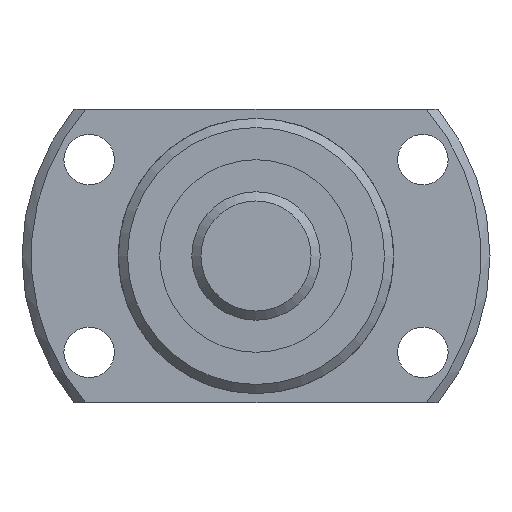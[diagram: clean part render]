
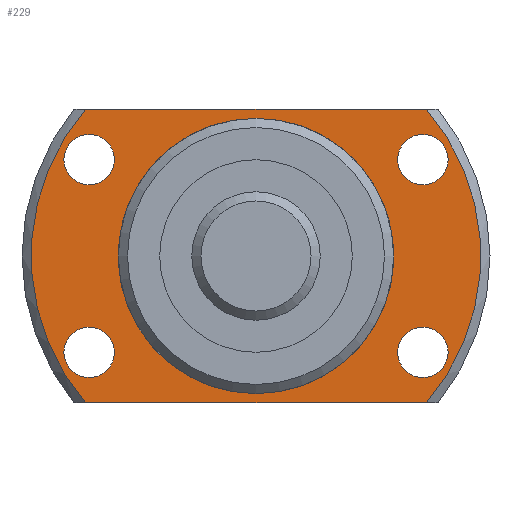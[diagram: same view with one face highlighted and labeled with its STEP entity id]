
A CAD part, left-side view. The second image highlights one B-rep face of the part: STEP entity #229.
In plain terms, the highlighted planar face has unit normal (-1, 0, 0).
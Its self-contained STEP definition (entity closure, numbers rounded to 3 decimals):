
#229 = ADVANCED_FACE( '', ( #398, #399, #400, #401, #402, #403 ), #404, .F. );
#398 = FACE_OUTER_BOUND( '', #597, .T. );
#399 = FACE_BOUND( '', #598, .T. );
#400 = FACE_BOUND( '', #599, .T. );
#401 = FACE_BOUND( '', #600, .T. );
#402 = FACE_BOUND( '', #601, .T. );
#403 = FACE_BOUND( '', #602, .T. );
#404 = PLANE( '', #603 );
#597 = EDGE_LOOP( '', ( #1066, #1067, #1068, #1069 ) );
#598 = EDGE_LOOP( '', ( #1070 ) );
#599 = EDGE_LOOP( '', ( #1071 ) );
#600 = EDGE_LOOP( '', ( #1072 ) );
#601 = EDGE_LOOP( '', ( #1073 ) );
#602 = EDGE_LOOP( '', ( #1074 ) );
#603 = AXIS2_PLACEMENT_3D( '', #1075, #1076, #1077 );
#1066 = ORIENTED_EDGE( '', *, *, #1233, .F. );
#1067 = ORIENTED_EDGE( '', *, *, #1334, .T. );
#1068 = ORIENTED_EDGE( '', *, *, #1328, .F. );
#1069 = ORIENTED_EDGE( '', *, *, #1227, .T. );
#1070 = ORIENTED_EDGE( '', *, *, #1335, .T. );
#1071 = ORIENTED_EDGE( '', *, *, #1336, .T. );
#1072 = ORIENTED_EDGE( '', *, *, #1337, .T. );
#1073 = ORIENTED_EDGE( '', *, *, #1338, .T. );
#1074 = ORIENTED_EDGE( '', *, *, #1330, .T. );
#1075 = CARTESIAN_POINT( '', ( 27., 14.8, 0. ) );
#1076 = DIRECTION( '', ( 1., 0., 0. ) );
#1077 = DIRECTION( '', ( 0., 0., -1. ) );
#1227 = EDGE_CURVE( '', #1411, #1409, #1412, .T. );
#1233 = EDGE_CURVE( '', #1422, #1409, #1423, .T. );
#1328 = EDGE_CURVE( '', #1411, #1588, #1589, .T. );
#1330 = EDGE_CURVE( '', #1591, #1591, #1592, .T. );
#1334 = EDGE_CURVE( '', #1422, #1588, #1596, .T. );
#1335 = EDGE_CURVE( '', #1597, #1597, #1598, .T. );
#1336 = EDGE_CURVE( '', #1599, #1599, #1600, .T. );
#1337 = EDGE_CURVE( '', #1601, #1601, #1602, .T. );
#1338 = EDGE_CURVE( '', #1603, #1603, #1604, .T. );
#1409 = VERTEX_POINT( '', #1692 );
#1411 = VERTEX_POINT( '', #1697 );
#1412 = LINE( '', #1698, #1699 );
#1422 = VERTEX_POINT( '', #1720 );
#1423 = CIRCLE( '', #1721, 24.5 );
#1588 = VERTEX_POINT( '', #1993 );
#1589 = CIRCLE( '', #1994, 24.5 );
#1591 = VERTEX_POINT( '', #1999 );
#1592 = CIRCLE( '', #2000, 14.8 );
#1596 = LINE( '', #2004, #2005 );
#1597 = VERTEX_POINT( '', #2006 );
#1598 = CIRCLE( '', #2007, 2.75 );
#1599 = VERTEX_POINT( '', #2008 );
#1600 = CIRCLE( '', #2009, 2.75 );
#1601 = VERTEX_POINT( '', #2010 );
#1602 = CIRCLE( '', #2011, 2.75 );
#1603 = VERTEX_POINT( '', #2012 );
#1604 = CIRCLE( '', #2013, 2.75 );
#1692 = CARTESIAN_POINT( '', ( 27., 18.554, 16. ) );
#1697 = CARTESIAN_POINT( '', ( 27., -18.554, 16. ) );
#1698 = CARTESIAN_POINT( '', ( 27., 14.8, 16. ) );
#1699 = VECTOR( '', #2108, 1000. );
#1720 = CARTESIAN_POINT( '', ( 27., 18.554, -16. ) );
#1721 = AXIS2_PLACEMENT_3D( '', #2111, #2112, #2113 );
#1993 = CARTESIAN_POINT( '', ( 27., -18.554, -16. ) );
#1994 = AXIS2_PLACEMENT_3D( '', #2277, #2278, #2279 );
#1999 = CARTESIAN_POINT( '', ( 27., 0., -14.8 ) );
#2000 = AXIS2_PLACEMENT_3D( '', #2280, #2281, #2282 );
#2004 = CARTESIAN_POINT( '', ( 27., 14.8, -16. ) );
#2005 = VECTOR( '', #2292, 1000. );
#2006 = CARTESIAN_POINT( '', ( 27., -18.187, -13.25 ) );
#2007 = AXIS2_PLACEMENT_3D( '', #2293, #2294, #2295 );
#2008 = CARTESIAN_POINT( '', ( 27., -18.187, 7.75 ) );
#2009 = AXIS2_PLACEMENT_3D( '', #2296, #2297, #2298 );
#2010 = CARTESIAN_POINT( '', ( 27., 18.187, -13.25 ) );
#2011 = AXIS2_PLACEMENT_3D( '', #2299, #2300, #2301 );
#2012 = CARTESIAN_POINT( '', ( 27., 18.187, 7.75 ) );
#2013 = AXIS2_PLACEMENT_3D( '', #2302, #2303, #2304 );
#2108 = DIRECTION( '', ( 0., 1., 0. ) );
#2111 = CARTESIAN_POINT( '', ( 27., 0., 0. ) );
#2112 = DIRECTION( '', ( 1., 0., 0. ) );
#2113 = DIRECTION( '', ( 0., 0., -1. ) );
#2277 = CARTESIAN_POINT( '', ( 27., 0., 0. ) );
#2278 = DIRECTION( '', ( 1., 0., 0. ) );
#2279 = DIRECTION( '', ( 0., 0., -1. ) );
#2280 = CARTESIAN_POINT( '', ( 27., 0., 0. ) );
#2281 = DIRECTION( '', ( 1., 0., 0. ) );
#2282 = DIRECTION( '', ( 0., 0., -1. ) );
#2292 = DIRECTION( '', ( 0., -1., 0. ) );
#2293 = CARTESIAN_POINT( '', ( 27., -18.187, -10.5 ) );
#2294 = DIRECTION( '', ( 1., 0., 0. ) );
#2295 = DIRECTION( '', ( 0., 0., -1. ) );
#2296 = CARTESIAN_POINT( '', ( 27., -18.187, 10.5 ) );
#2297 = DIRECTION( '', ( 1., 0., 0. ) );
#2298 = DIRECTION( '', ( 0., 0., -1. ) );
#2299 = CARTESIAN_POINT( '', ( 27., 18.187, -10.5 ) );
#2300 = DIRECTION( '', ( 1., 0., 0. ) );
#2301 = DIRECTION( '', ( 0., 0., -1. ) );
#2302 = CARTESIAN_POINT( '', ( 27., 18.187, 10.5 ) );
#2303 = DIRECTION( '', ( 1., 0., 0. ) );
#2304 = DIRECTION( '', ( 0., 0., -1. ) );
